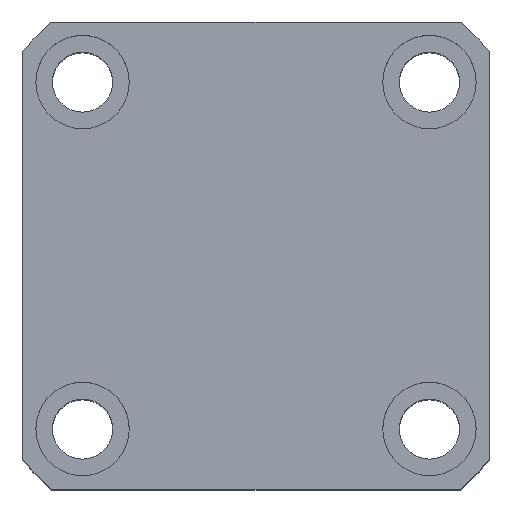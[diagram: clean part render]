
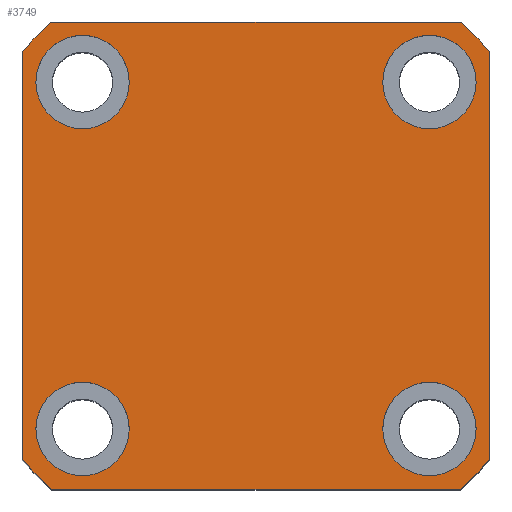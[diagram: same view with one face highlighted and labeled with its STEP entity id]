
A CAD part, top view. The second image highlights one B-rep face of the part: STEP entity #3749.
In plain terms, the highlighted planar face has unit normal (0, 0, 1).
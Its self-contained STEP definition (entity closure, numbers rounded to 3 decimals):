
#11 = DIRECTION ( 'NONE',  ( 0., 0., 1. ) ) ;
#25 = CARTESIAN_POINT ( 'NONE',  ( 0., 0., 85. ) ) ;
#96 = EDGE_LOOP ( 'NONE', ( #9486, #5770 ) ) ;
#149 = CARTESIAN_POINT ( 'NONE',  ( -35., -30.615, 85. ) ) ;
#221 = CARTESIAN_POINT ( 'NONE',  ( 35., 35., 85. ) ) ;
#269 = CARTESIAN_POINT ( 'NONE',  ( -26., -26., 85. ) ) ;
#324 = ORIENTED_EDGE ( 'NONE', *, *, #7592, .T. ) ;
#360 = CIRCLE ( 'NONE', #4150, 7. ) ;
#632 = DIRECTION ( 'NONE',  ( 0., 0., 1. ) ) ;
#693 = CARTESIAN_POINT ( 'NONE',  ( 30.615, 35., 85. ) ) ;
#779 = EDGE_CURVE ( 'NONE', #8879, #4512, #8850, .T. ) ;
#807 = DIRECTION ( 'NONE',  ( 1., 0., 0. ) ) ;
#825 = VERTEX_POINT ( 'NONE', #3058 ) ;
#888 = AXIS2_PLACEMENT_3D ( 'NONE', #3718, #3667, #3646 ) ;
#976 = CIRCLE ( 'NONE', #3839, 7. ) ;
#1023 = CARTESIAN_POINT ( 'NONE',  ( -33., -26., 85. ) ) ;
#1040 = CIRCLE ( 'NONE', #2981, 7. ) ;
#1055 = DIRECTION ( 'NONE',  ( 1., 0., 0. ) ) ;
#1231 = DIRECTION ( 'NONE',  ( 0., -1., 0. ) ) ;
#1303 = AXIS2_PLACEMENT_3D ( 'NONE', #1427, #6963, #2229 ) ;
#1307 = ORIENTED_EDGE ( 'NONE', *, *, #3988, .T. ) ;
#1420 = DIRECTION ( 'NONE',  ( 1., 0., 0. ) ) ;
#1427 = CARTESIAN_POINT ( 'NONE',  ( 26., -26., 85. ) ) ;
#1431 = EDGE_CURVE ( 'NONE', #6866, #825, #10039, .T. ) ;
#1447 = VERTEX_POINT ( 'NONE', #7519 ) ;
#1557 = VERTEX_POINT ( 'NONE', #7629 ) ;
#1800 = VERTEX_POINT ( 'NONE', #8516 ) ;
#1801 = DIRECTION ( 'NONE',  ( 0., 1., 0. ) ) ;
#1855 = CIRCLE ( 'NONE', #7382, 46.5 ) ;
#1920 = ORIENTED_EDGE ( 'NONE', *, *, #6010, .T. ) ;
#2160 = CARTESIAN_POINT ( 'NONE',  ( 19., -26., 85. ) ) ;
#2229 = DIRECTION ( 'NONE',  ( 1., 0., 0. ) ) ;
#2245 = VERTEX_POINT ( 'NONE', #8854 ) ;
#2297 = ORIENTED_EDGE ( 'NONE', *, *, #8703, .F. ) ;
#2438 = DIRECTION ( 'NONE',  ( 1., 0., 0. ) ) ;
#2521 = CARTESIAN_POINT ( 'NONE',  ( -19., -26., 85. ) ) ;
#2530 = ORIENTED_EDGE ( 'NONE', *, *, #779, .F. ) ;
#2588 = AXIS2_PLACEMENT_3D ( 'NONE', #4570, #6185, #1420 ) ;
#2591 = DIRECTION ( 'NONE',  ( 0., 0., 1. ) ) ;
#2623 = CARTESIAN_POINT ( 'NONE',  ( -26., 26., 85. ) ) ;
#2689 = EDGE_CURVE ( 'NONE', #825, #6833, #7352, .T. ) ;
#2722 = EDGE_CURVE ( 'NONE', #1800, #1447, #1040, .T. ) ;
#2731 = VERTEX_POINT ( 'NONE', #2868 ) ;
#2787 = DIRECTION ( 'NONE',  ( 0., 0., 1. ) ) ;
#2817 = CARTESIAN_POINT ( 'NONE',  ( 35., -30.615, 85. ) ) ;
#2868 = CARTESIAN_POINT ( 'NONE',  ( 35., 30.615, 85. ) ) ;
#2981 = AXIS2_PLACEMENT_3D ( 'NONE', #2623, #2591, #2438 ) ;
#3058 = CARTESIAN_POINT ( 'NONE',  ( -30.615, 35., 85. ) ) ;
#3077 = FACE_OUTER_BOUND ( 'NONE', #5230, .T. ) ;
#3162 = ORIENTED_EDGE ( 'NONE', *, *, #9951, .T. ) ;
#3184 = VECTOR ( 'NONE', #1801, 1000. ) ;
#3290 = AXIS2_PLACEMENT_3D ( 'NONE', #269, #5804, #1055 ) ;
#3423 = LINE ( 'NONE', #221, #3184 ) ;
#3524 = DIRECTION ( 'NONE',  ( 0., 0., 1. ) ) ;
#3539 = LINE ( 'NONE', #6762, #5669 ) ;
#3646 = DIRECTION ( 'NONE',  ( 1., 0., 0. ) ) ;
#3667 = DIRECTION ( 'NONE',  ( 0., 0., 1. ) ) ;
#3718 = CARTESIAN_POINT ( 'NONE',  ( 0., 0., 85. ) ) ;
#3749 = ADVANCED_FACE ( 'NONE', ( #5182, #9651, #8066, #7309, #3077 ), #5363, .T. ) ;
#3807 = CARTESIAN_POINT ( 'NONE',  ( -35., 30.615, 85. ) ) ;
#3839 = AXIS2_PLACEMENT_3D ( 'NONE', #8286, #3524, #9056 ) ;
#3900 = CARTESIAN_POINT ( 'NONE',  ( 0., 0., 85. ) ) ;
#3988 = EDGE_CURVE ( 'NONE', #8841, #1557, #1855, .T. ) ;
#4150 = AXIS2_PLACEMENT_3D ( 'NONE', #9068, #4328, #9857 ) ;
#4237 = VECTOR ( 'NONE', #9807, 1000. ) ;
#4328 = DIRECTION ( 'NONE',  ( 0., 0., 1. ) ) ;
#4512 = VERTEX_POINT ( 'NONE', #8407 ) ;
#4556 = LINE ( 'NONE', #7289, #6651 ) ;
#4570 = CARTESIAN_POINT ( 'NONE',  ( 0., 0., 85. ) ) ;
#4696 = DIRECTION ( 'NONE',  ( 1., 0., 0. ) ) ;
#4733 = CARTESIAN_POINT ( 'NONE',  ( 26., -26., 85. ) ) ;
#4786 = ORIENTED_EDGE ( 'NONE', *, *, #1431, .T. ) ;
#4944 = CIRCLE ( 'NONE', #3290, 7. ) ;
#5006 = VERTEX_POINT ( 'NONE', #7260 ) ;
#5008 = ORIENTED_EDGE ( 'NONE', *, *, #2689, .T. ) ;
#5182 = FACE_BOUND ( 'NONE', #96, .T. ) ;
#5230 = EDGE_LOOP ( 'NONE', ( #1920, #324, #4786, #5008, #3162, #1307, #5536, #7905 ) ) ;
#5307 = CIRCLE ( 'NONE', #9117, 46.5 ) ;
#5355 = CARTESIAN_POINT ( 'NONE',  ( 0., 0., 85. ) ) ;
#5363 = PLANE ( 'NONE',  #2588 ) ;
#5393 = EDGE_LOOP ( 'NONE', ( #10189, #2297 ) ) ;
#5395 = ORIENTED_EDGE ( 'NONE', *, *, #2722, .F. ) ;
#5424 = AXIS2_PLACEMENT_3D ( 'NONE', #7559, #2787, #8347 ) ;
#5489 = EDGE_CURVE ( 'NONE', #1557, #5006, #4556, .T. ) ;
#5524 = VERTEX_POINT ( 'NONE', #2521 ) ;
#5534 = DIRECTION ( 'NONE',  ( 1., 0., 0. ) ) ;
#5536 = ORIENTED_EDGE ( 'NONE', *, *, #5489, .T. ) ;
#5549 = DIRECTION ( 'NONE',  ( 0., 0., 1. ) ) ;
#5669 = VECTOR ( 'NONE', #1231, 1000. ) ;
#5679 = EDGE_CURVE ( 'NONE', #7124, #5524, #976, .T. ) ;
#5714 = EDGE_CURVE ( 'NONE', #4512, #8879, #9125, .T. ) ;
#5770 = ORIENTED_EDGE ( 'NONE', *, *, #5679, .F. ) ;
#5804 = DIRECTION ( 'NONE',  ( 0., 0., 1. ) ) ;
#6010 = EDGE_CURVE ( 'NONE', #7893, #2731, #3423, .T. ) ;
#6176 = DIRECTION ( 'NONE',  ( 1., 0., 0. ) ) ;
#6185 = DIRECTION ( 'NONE',  ( 0., 0., 1. ) ) ;
#6292 = EDGE_CURVE ( 'NONE', #5006, #7893, #8515, .T. ) ;
#6357 = EDGE_CURVE ( 'NONE', #2245, #7504, #10088, .T. ) ;
#6432 = CIRCLE ( 'NONE', #8916, 7. ) ;
#6651 = VECTOR ( 'NONE', #8095, 1000. ) ;
#6762 = CARTESIAN_POINT ( 'NONE',  ( -35., 35., 85. ) ) ;
#6833 = VERTEX_POINT ( 'NONE', #3807 ) ;
#6866 = VERTEX_POINT ( 'NONE', #693 ) ;
#6948 = DIRECTION ( 'NONE',  ( 1., 0., 0. ) ) ;
#6963 = DIRECTION ( 'NONE',  ( 0., 0., 1. ) ) ;
#7030 = DIRECTION ( 'NONE',  ( 0., 0., 1. ) ) ;
#7060 = CARTESIAN_POINT ( 'NONE',  ( 26., 26., 85. ) ) ;
#7124 = VERTEX_POINT ( 'NONE', #1023 ) ;
#7135 = EDGE_CURVE ( 'NONE', #5524, #7124, #4944, .T. ) ;
#7178 = AXIS2_PLACEMENT_3D ( 'NONE', #7060, #7030, #6948 ) ;
#7189 = CARTESIAN_POINT ( 'NONE',  ( 33., 26., 85. ) ) ;
#7239 = EDGE_LOOP ( 'NONE', ( #2530, #9093 ) ) ;
#7260 = CARTESIAN_POINT ( 'NONE',  ( 30.615, -35., 85. ) ) ;
#7289 = CARTESIAN_POINT ( 'NONE',  ( -35., -35., 85. ) ) ;
#7309 = FACE_BOUND ( 'NONE', #7987, .T. ) ;
#7352 = CIRCLE ( 'NONE', #888, 46.5 ) ;
#7382 = AXIS2_PLACEMENT_3D ( 'NONE', #25, #5549, #807 ) ;
#7504 = VERTEX_POINT ( 'NONE', #2160 ) ;
#7519 = CARTESIAN_POINT ( 'NONE',  ( -33., 26., 85. ) ) ;
#7559 = CARTESIAN_POINT ( 'NONE',  ( 26., 26., 85. ) ) ;
#7592 = EDGE_CURVE ( 'NONE', #2731, #6866, #5307, .T. ) ;
#7629 = CARTESIAN_POINT ( 'NONE',  ( -30.615, -35., 85. ) ) ;
#7701 = EDGE_CURVE ( 'NONE', #1447, #1800, #360, .T. ) ;
#7893 = VERTEX_POINT ( 'NONE', #2817 ) ;
#7905 = ORIENTED_EDGE ( 'NONE', *, *, #6292, .T. ) ;
#7987 = EDGE_LOOP ( 'NONE', ( #5395, #9826 ) ) ;
#8066 = FACE_BOUND ( 'NONE', #7239, .T. ) ;
#8095 = DIRECTION ( 'NONE',  ( 1., 0., 0. ) ) ;
#8286 = CARTESIAN_POINT ( 'NONE',  ( -26., -26., 85. ) ) ;
#8347 = DIRECTION ( 'NONE',  ( 1., 0., 0. ) ) ;
#8407 = CARTESIAN_POINT ( 'NONE',  ( 19., 26., 85. ) ) ;
#8515 = CIRCLE ( 'NONE', #8931, 46.5 ) ;
#8516 = CARTESIAN_POINT ( 'NONE',  ( -19., 26., 85. ) ) ;
#8703 = EDGE_CURVE ( 'NONE', #7504, #2245, #6432, .T. ) ;
#8841 = VERTEX_POINT ( 'NONE', #149 ) ;
#8850 = CIRCLE ( 'NONE', #7178, 7. ) ;
#8854 = CARTESIAN_POINT ( 'NONE',  ( 33., -26., 85. ) ) ;
#8879 = VERTEX_POINT ( 'NONE', #7189 ) ;
#8916 = AXIS2_PLACEMENT_3D ( 'NONE', #4733, #11, #5534 ) ;
#8931 = AXIS2_PLACEMENT_3D ( 'NONE', #5355, #632, #6176 ) ;
#9056 = DIRECTION ( 'NONE',  ( 1., 0., 0. ) ) ;
#9068 = CARTESIAN_POINT ( 'NONE',  ( -26., 26., 85. ) ) ;
#9093 = ORIENTED_EDGE ( 'NONE', *, *, #5714, .F. ) ;
#9117 = AXIS2_PLACEMENT_3D ( 'NONE', #3900, #9427, #4696 ) ;
#9125 = CIRCLE ( 'NONE', #5424, 7. ) ;
#9427 = DIRECTION ( 'NONE',  ( 0., 0., 1. ) ) ;
#9486 = ORIENTED_EDGE ( 'NONE', *, *, #7135, .F. ) ;
#9651 = FACE_BOUND ( 'NONE', #5393, .T. ) ;
#9776 = CARTESIAN_POINT ( 'NONE',  ( -35., 35., 85. ) ) ;
#9807 = DIRECTION ( 'NONE',  ( -1., 0., 0. ) ) ;
#9826 = ORIENTED_EDGE ( 'NONE', *, *, #7701, .F. ) ;
#9857 = DIRECTION ( 'NONE',  ( 1., 0., 0. ) ) ;
#9951 = EDGE_CURVE ( 'NONE', #6833, #8841, #3539, .T. ) ;
#10039 = LINE ( 'NONE', #9776, #4237 ) ;
#10088 = CIRCLE ( 'NONE', #1303, 7. ) ;
#10189 = ORIENTED_EDGE ( 'NONE', *, *, #6357, .F. ) ;
